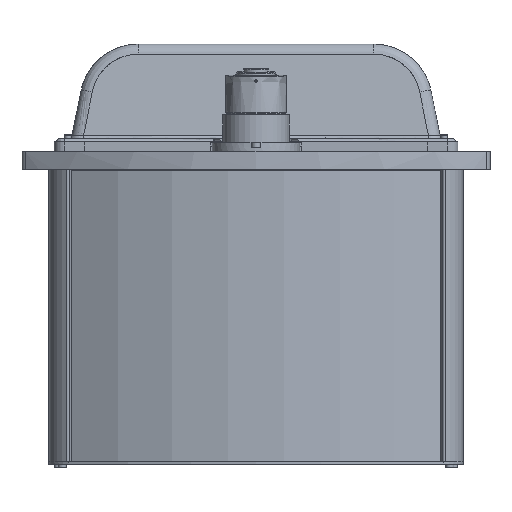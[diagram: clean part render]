
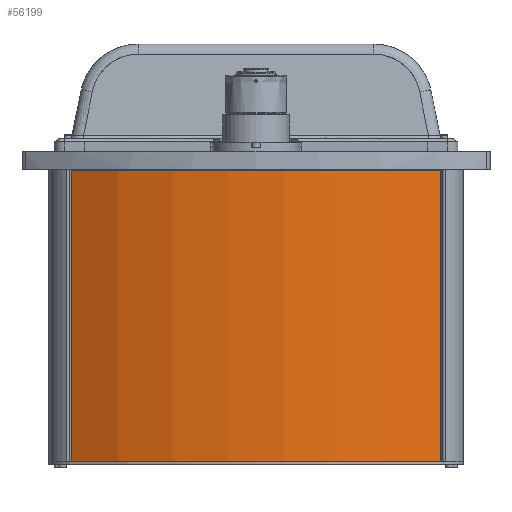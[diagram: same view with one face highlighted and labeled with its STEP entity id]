
A CAD part, front view. The second image highlights one B-rep face of the part: STEP entity #56199.
In plain terms, the highlighted face is a revolution surface.
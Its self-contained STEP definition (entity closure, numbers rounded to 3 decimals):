
#56199 = ADVANCED_FACE('',(#56200),#56214,.T.);
#56200 = FACE_BOUND('',#56201,.T.);
#56201 = EDGE_LOOP('',(#56202,#56227,#56243,#56258));
#56202 = ORIENTED_EDGE('',*,*,#56203,.F.);
#56203 = EDGE_CURVE('',#56204,#56206,#56208,.T.);
#56204 = VERTEX_POINT('',#56205);
#56205 = CARTESIAN_POINT('',(-193.524,8.215,273.03));
#56206 = VERTEX_POINT('',#56207);
#56207 = CARTESIAN_POINT('',(-193.524,8.215,-26.97));
#56208 = SURFACE_CURVE('',#56209,(#56213),.PCURVE_S1.);
#56209 = LINE('',#56210,#56211);
#56210 = CARTESIAN_POINT('',(-193.524,8.215,273.03));
#56211 = VECTOR('',#56212,1.);
#56212 = DIRECTION('',(0.,0.,-1.));
#56213 = PCURVE('',#56214,#56222);
#56214 = SURFACE_OF_REVOLUTION('',#56215,#56219);
#56215 = LINE('',#56216,#56217);
#56216 = CARTESIAN_POINT('',(-378.5,333.5,273.03));
#56217 = VECTOR('',#56218,1.);
#56218 = DIRECTION('',(0.,0.,-1.));
#56219 = AXIS1_PLACEMENT('',#56220,#56221);
#56220 = CARTESIAN_POINT('',(0.,333.5,-26.97));
#56221 = DIRECTION('',(0.,0.,1.));
#56222 = DEFINITIONAL_REPRESENTATION('',(#56223),#56226);
#56223 = B_SPLINE_CURVE_WITH_KNOTS('',1,(#56224,#56225),.UNSPECIFIED.,
  .F.,.F.,(2,2),(0.,300.),.PIECEWISE_BEZIER_KNOTS.);
#56224 = CARTESIAN_POINT('',(1.034,0.));
#56225 = CARTESIAN_POINT('',(1.034,300.));
#56226 = ( GEOMETRIC_REPRESENTATION_CONTEXT(2) 
PARAMETRIC_REPRESENTATION_CONTEXT() REPRESENTATION_CONTEXT('',''
  ) );
#56227 = ORIENTED_EDGE('',*,*,#56228,.F.);
#56228 = EDGE_CURVE('',#56229,#56204,#56231,.T.);
#56229 = VERTEX_POINT('',#56230);
#56230 = CARTESIAN_POINT('',(193.524,8.215,
    273.03));
#56231 = SURFACE_CURVE('',#56232,(#56237),.PCURVE_S1.);
#56232 = CIRCLE('',#56233,378.5);
#56233 = AXIS2_PLACEMENT_3D('',#56234,#56235,#56236);
#56234 = CARTESIAN_POINT('',(0.,333.5,273.03));
#56235 = DIRECTION('',(0.,0.,-1.));
#56236 = DIRECTION('',(0.511,-0.859,0.
    ));
#56237 = PCURVE('',#56214,#56238);
#56238 = DEFINITIONAL_REPRESENTATION('',(#56239),#56242);
#56239 = B_SPLINE_CURVE_WITH_KNOTS('',1,(#56240,#56241),.UNSPECIFIED.,
  .F.,.F.,(2,2),(0.,1.073),.PIECEWISE_BEZIER_KNOTS.);
#56240 = CARTESIAN_POINT('',(2.107,0.));
#56241 = CARTESIAN_POINT('',(1.034,0.));
#56242 = ( GEOMETRIC_REPRESENTATION_CONTEXT(2) 
PARAMETRIC_REPRESENTATION_CONTEXT() REPRESENTATION_CONTEXT('',''
  ) );
#56243 = ORIENTED_EDGE('',*,*,#56244,.F.);
#56244 = EDGE_CURVE('',#56245,#56229,#56247,.T.);
#56245 = VERTEX_POINT('',#56246);
#56246 = CARTESIAN_POINT('',(193.524,8.215,-26.97));
#56247 = SURFACE_CURVE('',#56248,(#56252),.PCURVE_S1.);
#56248 = LINE('',#56249,#56250);
#56249 = CARTESIAN_POINT('',(193.524,8.215,-26.97));
#56250 = VECTOR('',#56251,1.);
#56251 = DIRECTION('',(0.,0.,1.));
#56252 = PCURVE('',#56214,#56253);
#56253 = DEFINITIONAL_REPRESENTATION('',(#56254),#56257);
#56254 = B_SPLINE_CURVE_WITH_KNOTS('',1,(#56255,#56256),.UNSPECIFIED.,
  .F.,.F.,(2,2),(0.,300.),.PIECEWISE_BEZIER_KNOTS.);
#56255 = CARTESIAN_POINT('',(2.107,300.));
#56256 = CARTESIAN_POINT('',(2.107,0.));
#56257 = ( GEOMETRIC_REPRESENTATION_CONTEXT(2) 
PARAMETRIC_REPRESENTATION_CONTEXT() REPRESENTATION_CONTEXT('',''
  ) );
#56258 = ORIENTED_EDGE('',*,*,#56259,.F.);
#56259 = EDGE_CURVE('',#56206,#56245,#56260,.T.);
#56260 = SURFACE_CURVE('',#56261,(#56266),.PCURVE_S1.);
#56261 = CIRCLE('',#56262,378.5);
#56262 = AXIS2_PLACEMENT_3D('',#56263,#56264,#56265);
#56263 = CARTESIAN_POINT('',(0.,333.5,-26.97));
#56264 = DIRECTION('',(0.,0.,1.));
#56265 = DIRECTION('',(1.,0.,-0.));
#56266 = PCURVE('',#56214,#56267);
#56267 = DEFINITIONAL_REPRESENTATION('',(#56268),#56271);
#56268 = B_SPLINE_CURVE_WITH_KNOTS('',1,(#56269,#56270),.UNSPECIFIED.,
  .F.,.F.,(2,2),(4.176,5.249),
  .PIECEWISE_BEZIER_KNOTS.);
#56269 = CARTESIAN_POINT('',(1.034,300.));
#56270 = CARTESIAN_POINT('',(2.107,300.));
#56271 = ( GEOMETRIC_REPRESENTATION_CONTEXT(2) 
PARAMETRIC_REPRESENTATION_CONTEXT() REPRESENTATION_CONTEXT('',''
  ) );
